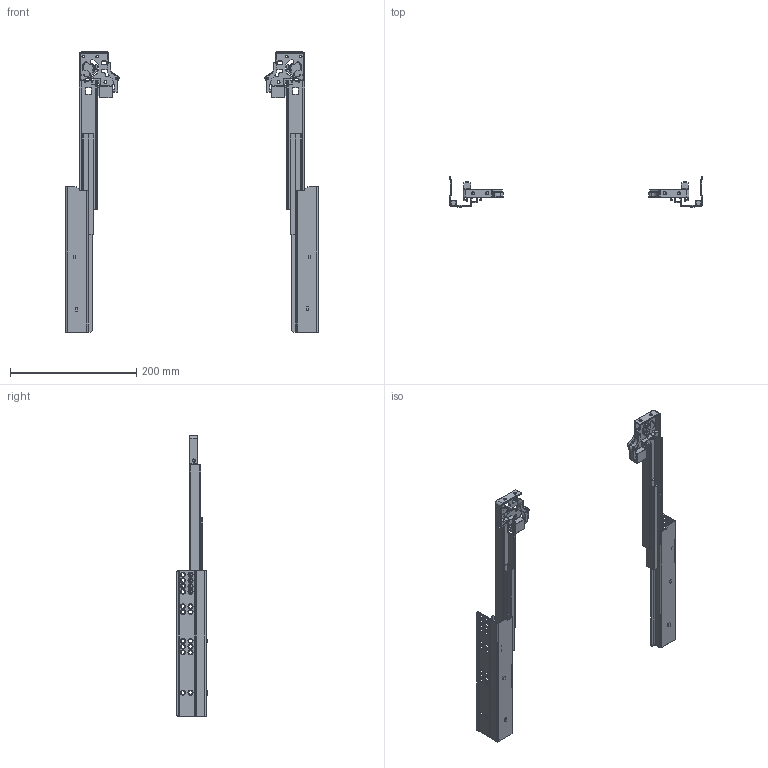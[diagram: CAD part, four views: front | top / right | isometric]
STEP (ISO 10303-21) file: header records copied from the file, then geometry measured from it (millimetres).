
FILE_DESCRIPTION(/* description */ (''),/* implementation_level */ '2;1');
FILE_NAME(/* name */ 'D:\$Workingspace\Designs\Katalog\Cadsoft\GTV Prowadnice\Prowadnice GTV_bryły 3D\PB-0FPO-250_wysunieta.stp',/* time_stamp */ '2016-11-21T14:08:35+01:00',/* author */ ('tomaszw'),/* organization */ (''),/* preprocessor_version */ 'ST-DEVELOPER v16.1',/* originating_system */ 'Autodesk Inventor 2016',/* authorisation */ '');
FILE_SCHEMA (('AUTOMOTIVE_DESIGN { 1 0 10303 214 3 1 1 }'));
Length unit declared in the file: millimetre
Products named in the file (9): PB-0FPO-CL-250; PB-0FPO-CR-250; PB-0FPO-DL-250; PB-0FPO-DR-250; PB-0FPO-DWL-250; PB-0FPO-DWR-250; PB-0FPO-SL; PB-0FPO-SR; PB-0FPO
Assembly tree (8 placements, depth 2):
  PB-0FPO
    PB-0FPO-CL-250
    PB-0FPO-CR-250
    PB-0FPO-DL-250
    PB-0FPO-DR-250
    PB-0FPO-DWL-250
    PB-0FPO-DWR-250
    PB-0FPO-SL
    PB-0FPO-SR
Bounding box: 400 x 48.8 x 444 mm (x, y, z)
Volume: 186882.5 mm3; surface area: 217943.5 mm2
Topology: 16 solids, 16 shells, 1866 faces, 4302 edges, 2474 vertices
Faces by surface type: cylinder 786, plane 440, torus 366, sphere 198, cone 40, bspline 36
Full cylindrical faces by diameter (mm): 3 x2, 4 x6, 4.5 x6, 5 x2, 6 x40, 7.889 x2
Entity records: 55865 total; most frequent: CARTESIAN_POINT 11079, DIRECTION 9896, ORIENTED_EDGE 8248, EDGE_CURVE 4124, AXIS2_PLACEMENT_3D 3993, VERTEX_POINT 2428, CIRCLE 2134, EDGE_LOOP 2132
